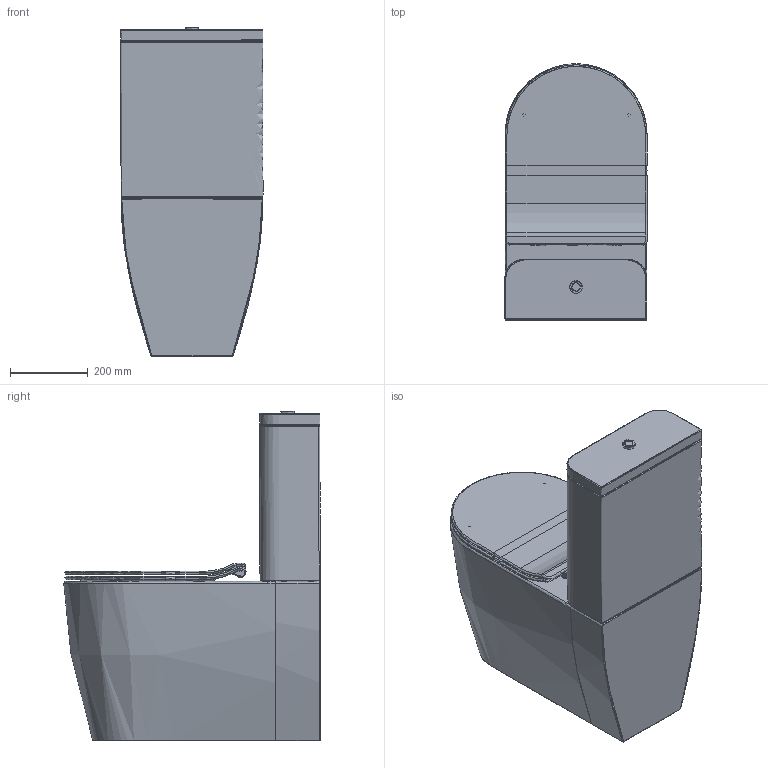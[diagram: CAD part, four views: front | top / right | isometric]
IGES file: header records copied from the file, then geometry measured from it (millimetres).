
Global section: file name: C:\Users\Massimiliano\Desktop\moon\MOON wc mooblocco art.5526+5527\MOON wc monoblocco art.5526+5527.igs; native system: Rhinoceros ( Mar 28 2013 ); preprocessor: Trout Lake IGES 012 Mar 28 2013; date: 171127.110041; units: millimetre
Bounding box: 366.21 x 660 x 847.34 mm (x, y, z)
Surface area: 2675944.8 mm2 (no closed solid volume)
Topology: 0 solids, 0 shells, 605 faces, 3583 edges, 3545 vertices
Faces by surface type: bspline 605
